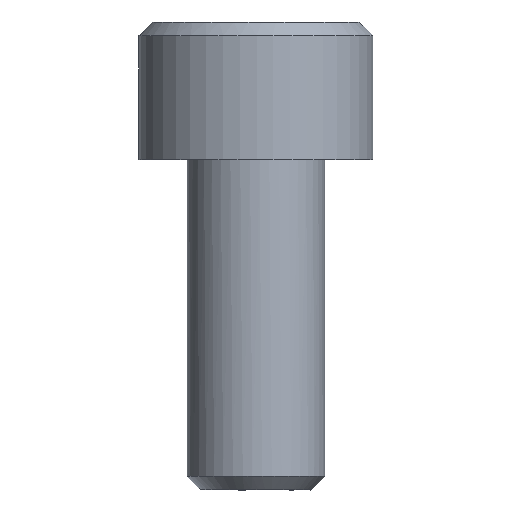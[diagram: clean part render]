
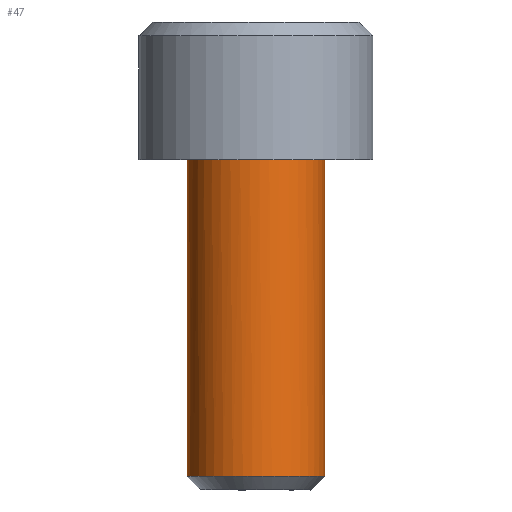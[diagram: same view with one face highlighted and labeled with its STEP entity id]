
A CAD part, left-side view. The second image highlights one B-rep face of the part: STEP entity #47.
In plain terms, the highlighted free-form (B-spline) face has degree [2, 1] with [9, 2] control points.
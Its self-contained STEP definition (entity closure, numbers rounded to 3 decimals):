
#47=ADVANCED_FACE('',(#97),#1485,.T.);
#97=FACE_OUTER_BOUND('',#147,.T.);
#147=EDGE_LOOP('',(#207,#208,#209,#210));
#207=ORIENTED_EDGE('',*,*,#1034,.T.);
#208=ORIENTED_EDGE('',*,*,#1035,.T.);
#209=ORIENTED_EDGE('',*,*,#1036,.T.);
#210=ORIENTED_EDGE('',*,*,#1037,.T.);
#418=(
BOUNDED_CURVE()
B_SPLINE_CURVE(2,(#1887,#1888,#1889,#1890,#1891),.UNSPECIFIED.,.F.,.F.)
B_SPLINE_CURVE_WITH_KNOTS((3,2,3),(0.,3.927,7.854),
 .UNSPECIFIED.)
CURVE()
GEOMETRIC_REPRESENTATION_ITEM()
RATIONAL_B_SPLINE_CURVE((1.,0.707,1.,0.707,1.))
REPRESENTATION_ITEM('')
);
#419=(
BOUNDED_CURVE()
B_SPLINE_CURVE(2,(#1898,#1899,#1900,#1901,#1902),.UNSPECIFIED.,.F.,.F.)
B_SPLINE_CURVE_WITH_KNOTS((3,2,3),(-7.854,-3.927,0.),
 .UNSPECIFIED.)
CURVE()
GEOMETRIC_REPRESENTATION_ITEM()
RATIONAL_B_SPLINE_CURVE((1.,0.707,1.,0.707,1.))
REPRESENTATION_ITEM('')
);
#446=(
BOUNDED_CURVE()
B_SPLINE_CURVE(2,(#2191,#2192,#2193,#2194,#2195),.UNSPECIFIED.,.F.,.F.)
B_SPLINE_CURVE_WITH_KNOTS((3,2,3),(-7.854,-3.927,0.),
 .UNSPECIFIED.)
CURVE()
GEOMETRIC_REPRESENTATION_ITEM()
RATIONAL_B_SPLINE_CURVE((1.,0.707,1.,0.707,1.))
REPRESENTATION_ITEM('')
);
#495=PCURVE('',#1485,#711);
#496=PCURVE('',#1485,#712);
#497=PCURVE('',#1485,#713);
#498=PCURVE('',#1485,#714);
#502=PCURVE('',#1486,#718);
#571=PCURVE('',#1490,#787);
#573=PCURVE('',#1490,#789);
#578=PCURVE('',#1466,#794);
#711=DEFINITIONAL_REPRESENTATION('',(#1148),#2874);
#712=DEFINITIONAL_REPRESENTATION('',(#1149),#2874);
#713=DEFINITIONAL_REPRESENTATION('',(#1151),#2874);
#714=DEFINITIONAL_REPRESENTATION('',(#1152),#2874);
#718=DEFINITIONAL_REPRESENTATION('',(#1158),#2874);
#787=DEFINITIONAL_REPRESENTATION('',(#1243),#2874);
#789=DEFINITIONAL_REPRESENTATION('',(#1245),#2874);
#794=DEFINITIONAL_REPRESENTATION('',(#446),#2874);
#926=SURFACE_CURVE('',#1147,(#495,#571),.PCURVE_S1.);
#927=SURFACE_CURVE('',#418,(#496,#502),.PCURVE_S1.);
#928=SURFACE_CURVE('',#1150,(#497,#573),.PCURVE_S1.);
#929=SURFACE_CURVE('',#419,(#498,#578),.PCURVE_S1.);
#1034=EDGE_CURVE('',#1393,#1394,#926,.T.);
#1035=EDGE_CURVE('',#1394,#1395,#927,.T.);
#1036=EDGE_CURVE('',#1395,#1396,#928,.T.);
#1037=EDGE_CURVE('',#1396,#1393,#929,.T.);
#1147=B_SPLINE_CURVE_WITH_KNOTS('',1,(#1883,#1884),.UNSPECIFIED.,.F.,.F.,
(2,2),(-11.51,0.),.UNSPECIFIED.);
#1148=B_SPLINE_CURVE_WITH_KNOTS('',1,(#1885,#1886),.UNSPECIFIED.,.F.,.F.,
(2,2),(-11.51,0.),.UNSPECIFIED.);
#1149=B_SPLINE_CURVE_WITH_KNOTS('',1,(#1892,#1893),.UNSPECIFIED.,.F.,.F.,
(2,2),(0.,7.854),.UNSPECIFIED.);
#1150=B_SPLINE_CURVE_WITH_KNOTS('',1,(#1894,#1895),.UNSPECIFIED.,.F.,.F.,
(2,2),(-11.51,0.),.UNSPECIFIED.);
#1151=B_SPLINE_CURVE_WITH_KNOTS('',1,(#1896,#1897),.UNSPECIFIED.,.F.,.F.,
(2,2),(-11.51,0.),.UNSPECIFIED.);
#1152=B_SPLINE_CURVE_WITH_KNOTS('',1,(#1903,#1904),.UNSPECIFIED.,.F.,.F.,
(2,2),(-7.854,0.),.UNSPECIFIED.);
#1158=B_SPLINE_CURVE_WITH_KNOTS('',1,(#1920,#1921),.UNSPECIFIED.,.F.,.F.,
(2,2),(0.,7.854),.UNSPECIFIED.);
#1243=B_SPLINE_CURVE_WITH_KNOTS('',1,(#2158,#2159),.UNSPECIFIED.,.F.,.F.,
(2,2),(-11.51,0.),.UNSPECIFIED.);
#1245=B_SPLINE_CURVE_WITH_KNOTS('',1,(#2167,#2168),.UNSPECIFIED.,.F.,.F.,
(2,2),(-11.51,0.),.UNSPECIFIED.);
#1393=VERTEX_POINT('',#1817);
#1394=VERTEX_POINT('',#1818);
#1395=VERTEX_POINT('',#1819);
#1396=VERTEX_POINT('',#1820);
#1466=PLANE('',#1557);
#1485=(
BOUNDED_SURFACE()
B_SPLINE_SURFACE(2,1,((#1652,#1653),(#1654,#1655),(#1656,#1657),(#1658,#1659),
(#1660,#1661),(#1662,#1663),(#1664,#1665),(#1666,#1667),(#1668,#1669)),
 .UNSPECIFIED.,.T.,.F.,.F.)
B_SPLINE_SURFACE_WITH_KNOTS((3,2,2,2,3),(2,2),(0.,1.571,3.142,
4.712,6.283),(0.,13.814),.UNSPECIFIED.)
GEOMETRIC_REPRESENTATION_ITEM()
RATIONAL_B_SPLINE_SURFACE(((1.,1.),(0.707,0.707),
(1.,1.),(0.707,0.707),(1.,1.),(0.707,
0.707),(1.,1.),(0.707,0.707),(1.,1.)))
REPRESENTATION_ITEM('')
SURFACE()
);
#1486=(
BOUNDED_SURFACE()
B_SPLINE_SURFACE(2,1,((#1670,#1671),(#1672,#1673),(#1674,#1675),(#1676,#1677),
(#1678,#1679),(#1680,#1681),(#1682,#1683),(#1684,#1685),(#1686,#1687)),
 .UNSPECIFIED.,.T.,.F.,.F.)
B_SPLINE_SURFACE_WITH_KNOTS((3,2,2,2,3),(2,2),(0.,1.571,3.142,
4.712,6.283),(0.,3.891),.UNSPECIFIED.)
GEOMETRIC_REPRESENTATION_ITEM()
RATIONAL_B_SPLINE_SURFACE(((1.,1.),(0.707,0.707),
(1.,1.),(0.707,0.707),(1.,1.),(0.707,
0.707),(1.,1.),(0.707,0.707),(1.,1.)))
REPRESENTATION_ITEM('')
SURFACE()
);
#1490=(
BOUNDED_SURFACE()
B_SPLINE_SURFACE(2,1,((#1755,#1756),(#1757,#1758),(#1759,#1760),(#1761,#1762),
(#1763,#1764),(#1765,#1766),(#1767,#1768),(#1769,#1770),(#1771,#1772)),
 .UNSPECIFIED.,.T.,.F.,.F.)
B_SPLINE_SURFACE_WITH_KNOTS((3,2,2,2,3),(2,2),(0.,1.571,3.142,
4.712,6.283),(0.,13.814),.UNSPECIFIED.)
GEOMETRIC_REPRESENTATION_ITEM()
RATIONAL_B_SPLINE_SURFACE(((1.,1.),(0.707,0.707),
(1.,1.),(0.707,0.707),(1.,1.),(0.707,
0.707),(1.,1.),(0.707,0.707),(1.,1.)))
REPRESENTATION_ITEM('')
SURFACE()
);
#1557=AXIS2_PLACEMENT_3D('',#1773,#1593,$);
#1593=DIRECTION('',(1.,0.,0.));
#1652=CARTESIAN_POINT('',(-1.152,-2.5,0.));
#1653=CARTESIAN_POINT('',(12.662,-2.5,0.));
#1654=CARTESIAN_POINT('',(-1.152,-2.5,-2.5));
#1655=CARTESIAN_POINT('',(12.662,-2.5,-2.5));
#1656=CARTESIAN_POINT('',(-1.152,0.,-2.5));
#1657=CARTESIAN_POINT('',(12.662,0.,-2.5));
#1658=CARTESIAN_POINT('',(-1.152,2.5,-2.5));
#1659=CARTESIAN_POINT('',(12.662,2.5,-2.5));
#1660=CARTESIAN_POINT('',(-1.152,2.5,0.));
#1661=CARTESIAN_POINT('',(12.662,2.5,0.));
#1662=CARTESIAN_POINT('',(-1.152,2.5,2.5));
#1663=CARTESIAN_POINT('',(12.662,2.5,2.5));
#1664=CARTESIAN_POINT('',(-1.152,0.,2.5));
#1665=CARTESIAN_POINT('',(12.662,0.,2.5));
#1666=CARTESIAN_POINT('',(-1.152,-2.5,2.5));
#1667=CARTESIAN_POINT('',(12.662,-2.5,2.5));
#1668=CARTESIAN_POINT('',(-1.152,-2.5,0.));
#1669=CARTESIAN_POINT('',(12.662,-2.5,0.));
#1670=CARTESIAN_POINT('',(14.01,0.,0.));
#1671=CARTESIAN_POINT('',(11.258,-2.751,0.));
#1672=CARTESIAN_POINT('',(14.01,0.,0.));
#1673=CARTESIAN_POINT('',(11.258,-2.751,2.751));
#1674=CARTESIAN_POINT('',(14.01,0.,0.));
#1675=CARTESIAN_POINT('',(11.258,0.,2.751));
#1676=CARTESIAN_POINT('',(14.01,0.,0.));
#1677=CARTESIAN_POINT('',(11.258,2.751,2.751));
#1678=CARTESIAN_POINT('',(14.01,0.,0.));
#1679=CARTESIAN_POINT('',(11.258,2.751,0.));
#1680=CARTESIAN_POINT('',(14.01,0.,0.));
#1681=CARTESIAN_POINT('',(11.258,2.751,-2.751));
#1682=CARTESIAN_POINT('',(14.01,0.,0.));
#1683=CARTESIAN_POINT('',(11.258,0.,-2.751));
#1684=CARTESIAN_POINT('',(14.01,0.,0.));
#1685=CARTESIAN_POINT('',(11.258,-2.751,-2.751));
#1686=CARTESIAN_POINT('',(14.01,0.,0.));
#1687=CARTESIAN_POINT('',(11.258,-2.751,0.));
#1755=CARTESIAN_POINT('',(-1.152,2.5,0.));
#1756=CARTESIAN_POINT('',(12.662,2.5,0.));
#1757=CARTESIAN_POINT('',(-1.152,2.5,2.5));
#1758=CARTESIAN_POINT('',(12.662,2.5,2.5));
#1759=CARTESIAN_POINT('',(-1.152,0.,2.5));
#1760=CARTESIAN_POINT('',(12.662,0.,2.5));
#1761=CARTESIAN_POINT('',(-1.152,-2.5,2.5));
#1762=CARTESIAN_POINT('',(12.662,-2.5,2.5));
#1763=CARTESIAN_POINT('',(-1.152,-2.5,0.));
#1764=CARTESIAN_POINT('',(12.662,-2.5,0.));
#1765=CARTESIAN_POINT('',(-1.152,-2.5,-2.5));
#1766=CARTESIAN_POINT('',(12.662,-2.5,-2.5));
#1767=CARTESIAN_POINT('',(-1.152,0.,-2.5));
#1768=CARTESIAN_POINT('',(12.662,0.,-2.5));
#1769=CARTESIAN_POINT('',(-1.152,2.5,-2.5));
#1770=CARTESIAN_POINT('',(12.662,2.5,-2.5));
#1771=CARTESIAN_POINT('',(-1.152,2.5,0.));
#1772=CARTESIAN_POINT('',(12.662,2.5,0.));
#1773=CARTESIAN_POINT('',(0.,-5.101,5.101));
#1817=CARTESIAN_POINT('',(0.,0.,2.5));
#1818=CARTESIAN_POINT('',(11.51,0.,2.5));
#1819=CARTESIAN_POINT('',(11.51,0.,-2.5));
#1820=CARTESIAN_POINT('',(0.,0.,-2.5));
#1883=CARTESIAN_POINT('',(0.,0.,2.5));
#1884=CARTESIAN_POINT('',(11.51,0.,2.5));
#1885=CARTESIAN_POINT('',(4.712,1.152));
#1886=CARTESIAN_POINT('',(4.712,12.662));
#1887=CARTESIAN_POINT('',(11.51,0.,2.5));
#1888=CARTESIAN_POINT('',(11.51,2.5,2.5));
#1889=CARTESIAN_POINT('',(11.51,2.5,0.));
#1890=CARTESIAN_POINT('',(11.51,2.5,-2.5));
#1891=CARTESIAN_POINT('',(11.51,0.,-2.5));
#1892=CARTESIAN_POINT('',(4.712,12.662));
#1893=CARTESIAN_POINT('',(1.571,12.662));
#1894=CARTESIAN_POINT('',(11.51,0.,-2.5));
#1895=CARTESIAN_POINT('',(0.,0.,-2.5));
#1896=CARTESIAN_POINT('',(1.571,12.662));
#1897=CARTESIAN_POINT('',(1.571,1.152));
#1898=CARTESIAN_POINT('',(0.,0.,-2.5));
#1899=CARTESIAN_POINT('',(0.,2.5,-2.5));
#1900=CARTESIAN_POINT('',(0.,2.5,0.));
#1901=CARTESIAN_POINT('',(0.,2.5,2.5));
#1902=CARTESIAN_POINT('',(0.,0.,2.5));
#1903=CARTESIAN_POINT('',(1.571,1.152));
#1904=CARTESIAN_POINT('',(4.712,1.152));
#1920=CARTESIAN_POINT('',(1.571,3.536));
#1921=CARTESIAN_POINT('',(4.712,3.536));
#2158=CARTESIAN_POINT('',(1.571,1.152));
#2159=CARTESIAN_POINT('',(1.571,12.662));
#2167=CARTESIAN_POINT('',(4.712,12.662));
#2168=CARTESIAN_POINT('',(4.712,1.152));
#2191=CARTESIAN_POINT('',(5.875,0.));
#2192=CARTESIAN_POINT('',(5.875,2.5));
#2193=CARTESIAN_POINT('',(3.375,2.5));
#2194=CARTESIAN_POINT('',(0.875,2.5));
#2195=CARTESIAN_POINT('',(0.875,0.));
#2874=(
GEOMETRIC_REPRESENTATION_CONTEXT(2)
PARAMETRIC_REPRESENTATION_CONTEXT()
REPRESENTATION_CONTEXT('pspace','')
);
